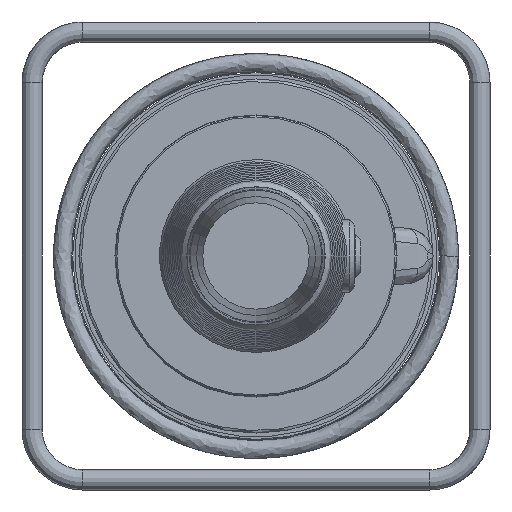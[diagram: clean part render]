
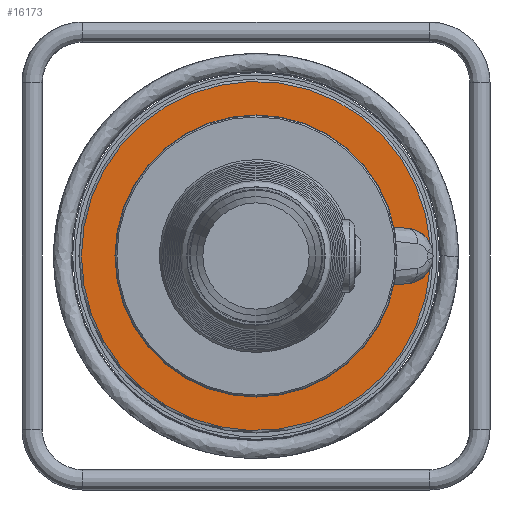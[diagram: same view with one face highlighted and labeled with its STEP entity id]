
A CAD part, left-side view. The second image highlights one B-rep face of the part: STEP entity #16173.
In plain terms, the highlighted planar face has unit normal (-1, 0, 0).
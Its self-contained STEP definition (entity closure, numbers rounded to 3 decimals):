
#920=LINE('',#40702,#1793);
#921=LINE('',#40709,#1794);
#1793=VECTOR('',#19691,30.808);
#1794=VECTOR('',#19698,30.808);
#2490=PLANE('',#17081);
#4500=FACE_OUTER_BOUND('',#5589,.T.);
#5589=EDGE_LOOP('',(#14255,#14256,#14257,#14258,#14259,#14260,#14261,#14262));
#6276=CIRCLE('',#17082,22.);
#6277=CIRCLE('',#17083,138.);
#6278=CIRCLE('',#17084,22.);
#6279=CIRCLE('',#17085,10.);
#6280=CIRCLE('',#17086,91.5);
#6281=CIRCLE('',#17087,10.);
#7818=VERTEX_POINT('',#40694);
#7819=VERTEX_POINT('',#40695);
#7820=VERTEX_POINT('',#40697);
#7821=VERTEX_POINT('',#40699);
#7822=VERTEX_POINT('',#40701);
#7823=VERTEX_POINT('',#40703);
#7824=VERTEX_POINT('',#40705);
#7825=VERTEX_POINT('',#40707);
#10021=EDGE_CURVE('',#7818,#7819,#6276,.T.);
#10022=EDGE_CURVE('',#7820,#7819,#6277,.T.);
#10023=EDGE_CURVE('',#7820,#7821,#6278,.T.);
#10024=EDGE_CURVE('',#7821,#7822,#920,.T.);
#10025=EDGE_CURVE('',#7822,#7823,#6279,.T.);
#10026=EDGE_CURVE('',#7823,#7824,#6280,.T.);
#10027=EDGE_CURVE('',#7824,#7825,#6281,.T.);
#10028=EDGE_CURVE('',#7825,#7818,#921,.T.);
#14255=ORIENTED_EDGE('',*,*,#10021,.T.);
#14256=ORIENTED_EDGE('',*,*,#10022,.F.);
#14257=ORIENTED_EDGE('',*,*,#10023,.T.);
#14258=ORIENTED_EDGE('',*,*,#10024,.T.);
#14259=ORIENTED_EDGE('',*,*,#10025,.T.);
#14260=ORIENTED_EDGE('',*,*,#10026,.T.);
#14261=ORIENTED_EDGE('',*,*,#10027,.T.);
#14262=ORIENTED_EDGE('',*,*,#10028,.T.);
#16173=ADVANCED_FACE('',(#4500),#2490,.T.);
#17081=AXIS2_PLACEMENT_3D('',#40693,#19683,#19684);
#17082=AXIS2_PLACEMENT_3D('',#40696,#19685,#19686);
#17083=AXIS2_PLACEMENT_3D('',#40698,#19687,#19688);
#17084=AXIS2_PLACEMENT_3D('',#40700,#19689,#19690);
#17085=AXIS2_PLACEMENT_3D('',#40704,#19692,#19693);
#17086=AXIS2_PLACEMENT_3D('',#40706,#19694,#19695);
#17087=AXIS2_PLACEMENT_3D('',#40708,#19696,#19697);
#19683=DIRECTION('center_axis',(-1.,0.,0.));
#19684=DIRECTION('ref_axis',(0.,1.,0.));
#19685=DIRECTION('center_axis',(1.,0.,0.));
#19686=DIRECTION('ref_axis',(0.,0.087,0.996));
#19687=DIRECTION('center_axis',(1.,0.,0.));
#19688=DIRECTION('ref_axis',(0.,0.,
1.));
#19689=DIRECTION('center_axis',(1.,0.,0.));
#19690=DIRECTION('ref_axis',(0.,0.087,0.996));
#19691=DIRECTION('',(0.,0.996,-0.087));
#19692=DIRECTION('center_axis',(-1.,0.,0.));
#19693=DIRECTION('ref_axis',(0.,0.087,0.996));
#19694=DIRECTION('center_axis',(1.,0.,0.));
#19695=DIRECTION('ref_axis',(0.,0.,
1.));
#19696=DIRECTION('center_axis',(-1.,0.,0.));
#19697=DIRECTION('ref_axis',(0.,0.934,-0.358));
#19698=DIRECTION('',(0.,-0.996,-0.087));
#40693=CARTESIAN_POINT('Origin',(-17.009,-0.004,
114.75));
#40694=CARTESIAN_POINT('',(-17.009,-119.922,21.916));
#40695=CARTESIAN_POINT('',(-17.009,-137.649,9.905));
#40696=CARTESIAN_POINT('Origin',(-17.009,-118.004,0.));
#40697=CARTESIAN_POINT('',(-17.009,-137.649,-9.905));
#40698=CARTESIAN_POINT('Origin',(-17.009,-0.004,
0.));
#40699=CARTESIAN_POINT('',(-17.009,-119.922,-21.916));
#40700=CARTESIAN_POINT('Origin',(-17.009,-118.004,0.));
#40701=CARTESIAN_POINT('',(-17.009,-89.231,-24.601));
#40702=CARTESIAN_POINT('',(-17.009,-66.352,-26.603));
#40703=CARTESIAN_POINT('',(-17.009,-88.088,-24.768));
#40704=CARTESIAN_POINT('Origin',(-17.009,-90.102,-34.563));
#40705=CARTESIAN_POINT('',(-17.009,-88.088,24.768));
#40706=CARTESIAN_POINT('Origin',(-17.009,-0.004,
0.));
#40707=CARTESIAN_POINT('',(-17.009,-89.231,24.601));
#40708=CARTESIAN_POINT('Origin',(-17.009,-90.102,34.563));
#40709=CARTESIAN_POINT('',(-17.009,-41.043,28.817));
